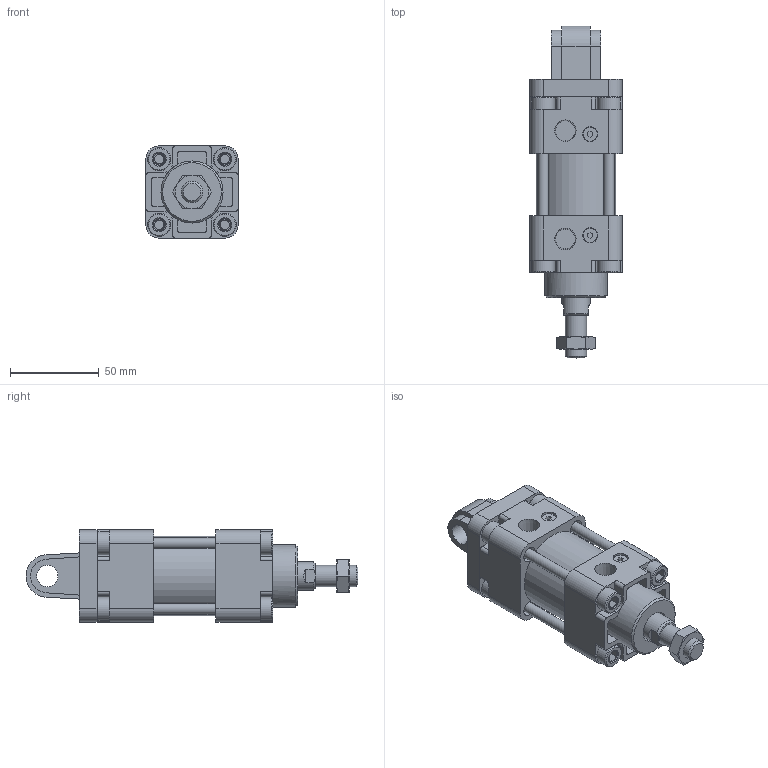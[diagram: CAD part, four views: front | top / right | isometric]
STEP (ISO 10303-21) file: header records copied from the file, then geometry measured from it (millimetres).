
FILE_DESCRIPTION(/* description */ ('Unknown'),/* implementation_level */ '2;1');
FILE_NAME(/* name */ 'WA40-CA',/* time_stamp */ '2026-07-17T16:48:08+08:00',/* author */ ('Unknown'),/* organization */ ('Unknown'),/* preprocessor_version */ 'ST-DEVELOPER v16.7',/* originating_system */ 'DEX',/* authorisation */ $);
FILE_SCHEMA (('CONFIG_CONTROL_DESIGN'));
Length unit declared in the file: millimetre
Products named in the file (8): WA40-CA; WA40_玡嶈搵; WA40_後; WA40_鋁; WA40_¤ß¶b¬¡æ´»å¡žçµ„; WA40_T碪墮姊濈祫; M12-1.25P-7_螺5; WA40_CA
Assembly tree (10 placements, depth 2):
  WA40-CA
    WA40_玡嶈搵
    WA40_後
    WA40_鋁
    WA40_¤ß¶b¬¡æ´»å¡žçµ„
    WA40_T碪墮姊濈祫  x4
    M12-1.25P-7_螺5
    WA40_CA
Bounding box: 52 x 187 x 52 mm (x, y, z)
Volume: 269276.1 mm3; surface area: 82551.5 mm2
Topology: 10 solids, 10 shells, 380 faces, 909 edges, 611 vertices
Faces by surface type: plane 225, cylinder 118, cone 37
Full cylindrical faces by diameter (mm): 5 x8, 6 x4, 7 x4, 8 x2, 8.5 x2, 8.8 x8, 9 x8, 10.647 x1, 11 x4, 12 x2, 13 x8, 16 x2, 35 x1, 39.5 x1, 40 x3, 45 x1
Entity records: 9643 total; most frequent: CARTESIAN_POINT 1420, DIRECTION 1392, ORIENTED_EDGE 1230, EDGE_CURVE 615, AXIS2_PLACEMENT_3D 519, VERTEX_POINT 435, EDGE_LOOP 388, FACE_BOUND 388
